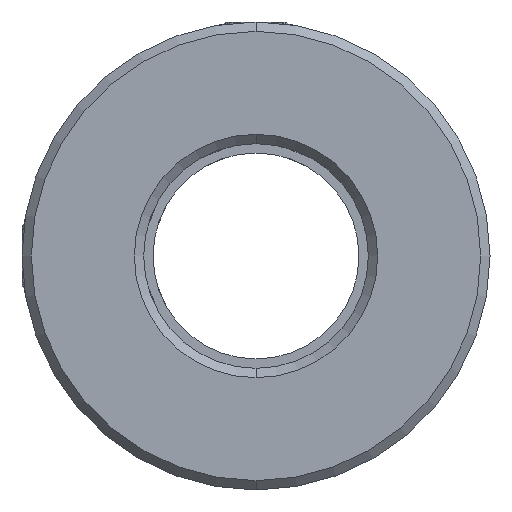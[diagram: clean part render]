
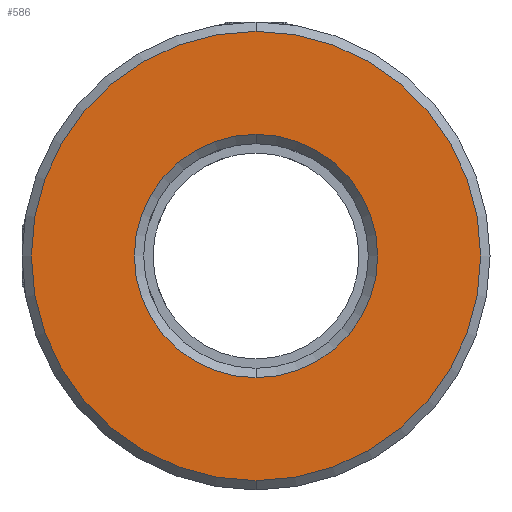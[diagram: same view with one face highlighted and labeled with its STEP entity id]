
A CAD part, front view. The second image highlights one B-rep face of the part: STEP entity #586.
In plain terms, the highlighted planar face has unit normal (0, -1, 0).
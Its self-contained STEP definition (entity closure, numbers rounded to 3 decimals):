
#212 = CARTESIAN_POINT ( 'NONE',  ( -10.188, -0.277, 6.546 ) ) ;
#234 = AXIS2_PLACEMENT_3D ( 'NONE', #1471, #1193, #2075 ) ;
#268 = DIRECTION ( 'NONE',  ( 0., 1., 0. ) ) ;
#303 = ORIENTED_EDGE ( 'NONE', *, *, #890, .T. ) ;
#390 = DIRECTION ( 'NONE',  ( 0., 0., 1. ) ) ;
#393 = DIRECTION ( 'NONE',  ( 0., -1., 0. ) ) ;
#476 = ORIENTED_EDGE ( 'NONE', *, *, #3537, .T. ) ;
#586 = ADVANCED_FACE ( 'NONE', ( #979, #602 ), #1765, .F. ) ;
#589 = EDGE_LOOP ( 'NONE', ( #3109, #2072 ) ) ;
#602 = FACE_BOUND ( 'NONE', #1567, .T. ) ;
#615 = CARTESIAN_POINT ( 'NONE',  ( -10.188, -0.277, 0.046 ) ) ;
#662 = EDGE_CURVE ( 'NONE', #3381, #2502, #2651, .T. ) ;
#733 = AXIS2_PLACEMENT_3D ( 'NONE', #1049, #2481, #3609 ) ;
#890 = EDGE_CURVE ( 'NONE', #2646, #1313, #1397, .T. ) ;
#979 = FACE_OUTER_BOUND ( 'NONE', #589, .T. ) ;
#1015 = EDGE_CURVE ( 'NONE', #2502, #3381, #1639, .T. ) ;
#1049 = CARTESIAN_POINT ( 'NONE',  ( -10.188, -0.277, 0.046 ) ) ;
#1193 = DIRECTION ( 'NONE',  ( 0., 1., 0. ) ) ;
#1313 = VERTEX_POINT ( 'NONE', #212 ) ;
#1339 = DIRECTION ( 'NONE',  ( 0., 1., 0. ) ) ;
#1397 = CIRCLE ( 'NONE', #2955, 6.5 ) ;
#1471 = CARTESIAN_POINT ( 'NONE',  ( -10.188, -0.277, 0.046 ) ) ;
#1567 = EDGE_LOOP ( 'NONE', ( #303, #476 ) ) ;
#1616 = AXIS2_PLACEMENT_3D ( 'NONE', #2563, #268, #3643 ) ;
#1639 = CIRCLE ( 'NONE', #733, 12. ) ;
#1765 = PLANE ( 'NONE',  #234 ) ;
#1828 = CARTESIAN_POINT ( 'NONE',  ( -10.188, -0.277, 0.046 ) ) ;
#2072 = ORIENTED_EDGE ( 'NONE', *, *, #1015, .T. ) ;
#2075 = DIRECTION ( 'NONE',  ( 0., 0., 1. ) ) ;
#2481 = DIRECTION ( 'NONE',  ( 0., -1., 0. ) ) ;
#2502 = VERTEX_POINT ( 'NONE', #3580 ) ;
#2563 = CARTESIAN_POINT ( 'NONE',  ( -10.188, -0.277, 0.046 ) ) ;
#2595 = AXIS2_PLACEMENT_3D ( 'NONE', #615, #393, #3193 ) ;
#2646 = VERTEX_POINT ( 'NONE', #2760 ) ;
#2651 = CIRCLE ( 'NONE', #2595, 12. ) ;
#2760 = CARTESIAN_POINT ( 'NONE',  ( -10.188, -0.277, -6.454 ) ) ;
#2955 = AXIS2_PLACEMENT_3D ( 'NONE', #1828, #1339, #390 ) ;
#3109 = ORIENTED_EDGE ( 'NONE', *, *, #662, .T. ) ;
#3193 = DIRECTION ( 'NONE',  ( 0., 0., 1. ) ) ;
#3238 = CIRCLE ( 'NONE', #1616, 6.5 ) ;
#3381 = VERTEX_POINT ( 'NONE', #3585 ) ;
#3537 = EDGE_CURVE ( 'NONE', #1313, #2646, #3238, .T. ) ;
#3580 = CARTESIAN_POINT ( 'NONE',  ( -10.188, -0.277, -11.954 ) ) ;
#3585 = CARTESIAN_POINT ( 'NONE',  ( -10.188, -0.277, 12.046 ) ) ;
#3609 = DIRECTION ( 'NONE',  ( 0., 0., 1. ) ) ;
#3643 = DIRECTION ( 'NONE',  ( 0., 0., 1. ) ) ;
